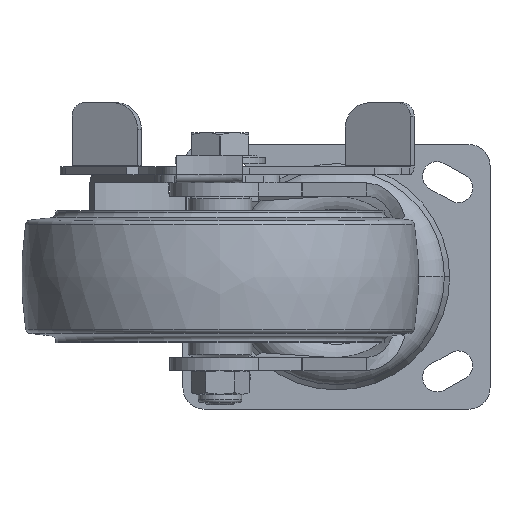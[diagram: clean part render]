
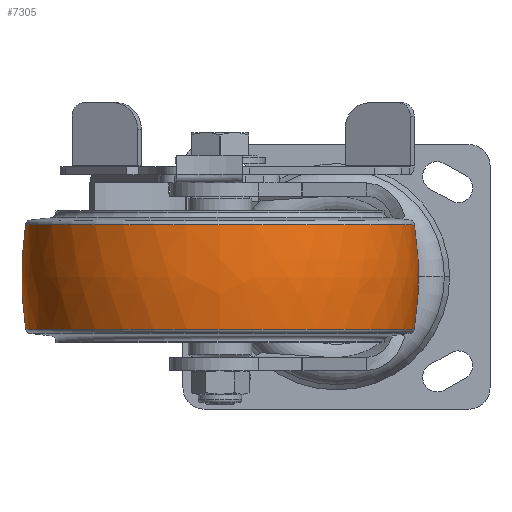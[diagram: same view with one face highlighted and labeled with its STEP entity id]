
A CAD part, front view. The second image highlights one B-rep face of the part: STEP entity #7305.
In plain terms, the highlighted free-form (B-spline) face has degree [3, 3] with [7, 4] control points.
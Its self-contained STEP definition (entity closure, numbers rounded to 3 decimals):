
#5368=CARTESIAN_POINT('',(-19.746,0.,0.));
#5369=DIRECTION('',(-1.,0.,0.));
#5370=DIRECTION('',(0.,1.,0.));
#5371=AXIS2_PLACEMENT_3D('',#5368,#5369,#5370);
#5373=CARTESIAN_POINT('',(0.,-51.741,0.));
#5374=DIRECTION('',(0.,0.,1.));
#5375=DIRECTION('',(0.156,0.988,0.));
#5376=AXIS2_PLACEMENT_3D('',#5373,#5374,#5375);
#5378=CARTESIAN_POINT('',(0.,51.741,
0.));
#5379=DIRECTION('',(0.,0.,-1.));
#5380=DIRECTION('',(0.156,-0.988,0.));
#5381=AXIS2_PLACEMENT_3D('',#5378,#5379,#5380);
#5383=CARTESIAN_POINT('',(19.746,0.,0.));
#5384=DIRECTION('',(-1.,0.,0.));
#5385=DIRECTION('',(0.,1.,0.));
#5386=AXIS2_PLACEMENT_3D('',#5383,#5384,#5385);
#6084=CARTESIAN_POINT('',(19.746,73.452,0.));
#6085=VERTEX_POINT('',#6084);
#6086=CARTESIAN_POINT('',(-19.746,73.452,0.));
#6087=VERTEX_POINT('',#6086);
#6104=CARTESIAN_POINT('',(19.746,-73.452,
0.));
#6105=VERTEX_POINT('',#6104);
#6106=CARTESIAN_POINT('',(-19.746,-73.452,
0.));
#6107=VERTEX_POINT('',#6106);
#7267=CARTESIAN_POINT('',(-20.529,-73.182,
4.604));
#7268=CARTESIAN_POINT('',(-6.904,-75.414,
4.745));
#7269=CARTESIAN_POINT('',(6.904,-75.414,4.745));
#7270=CARTESIAN_POINT('',(20.529,-73.182,4.604));
#7271=CARTESIAN_POINT('',(-20.529,-76.015,
-40.432));
#7272=CARTESIAN_POINT('',(-6.904,-78.334,
-41.665));
#7273=CARTESIAN_POINT('',(6.904,-78.334,
-41.665));
#7274=CARTESIAN_POINT('',(20.529,-76.015,
-40.432));
#7275=CARTESIAN_POINT('',(-20.529,-45.125,
-73.326));
#7276=CARTESIAN_POINT('',(-6.904,-46.501,
-75.563));
#7277=CARTESIAN_POINT('',(6.904,-46.501,
-75.563));
#7278=CARTESIAN_POINT('',(20.529,-45.125,
-73.326));
#7279=CARTESIAN_POINT('',(-20.529,0.,-73.326));
#7280=CARTESIAN_POINT('',(-6.904,0.,-75.563));
#7281=CARTESIAN_POINT('',(6.904,0.,
-75.563));
#7282=CARTESIAN_POINT('',(20.529,0.,-73.326));
#7283=CARTESIAN_POINT('',(-20.529,45.125,
-73.326));
#7284=CARTESIAN_POINT('',(-6.904,46.501,
-75.563));
#7285=CARTESIAN_POINT('',(6.904,46.501,-75.563));
#7286=CARTESIAN_POINT('',(20.529,45.125,-73.326));
#7287=CARTESIAN_POINT('',(-20.529,76.015,
-40.432));
#7288=CARTESIAN_POINT('',(-6.904,78.334,
-41.665));
#7289=CARTESIAN_POINT('',(6.904,78.334,-41.665));
#7290=CARTESIAN_POINT('',(20.529,76.015,-40.432));
#7291=CARTESIAN_POINT('',(-20.529,73.182,4.604));
#7292=CARTESIAN_POINT('',(-6.904,75.414,4.745));
#7293=CARTESIAN_POINT('',(6.904,75.414,4.745));
#7294=CARTESIAN_POINT('',(20.529,73.182,4.604));
#7295=(BOUNDED_SURFACE()B_SPLINE_SURFACE(3,3,((#7267,#7268,#7269,#7270),(#7271,
#7272,#7273,#7274),(#7275,#7276,#7277,#7278),(#7279,#7280,#7281,#7282),(#7283,
#7284,#7285,#7286),(#7287,#7288,#7289,#7290),(#7291,#7292,#7293,#7294)),
.UNSPECIFIED.,.F.,.F.,.F.)B_SPLINE_SURFACE_WITH_KNOTS((4,3,4),(4,4),(0.,1.,
2.),(0.,1.),.UNSPECIFIED.)GEOMETRIC_REPRESENTATION_ITEM()RATIONAL_B_SPLINE_SURFACE(((1.195,1.185,1.185,1.195),(
0.944,0.936,0.936,0.944),(
0.944,0.936,0.936,0.944),(
1.195,1.185,1.185,1.195),(
0.944,0.936,0.936,0.944),(
0.944,0.936,0.936,0.944),(
1.195,1.185,1.185,1.195)))REPRESENTATION_ITEM('')SURFACE());
#7297=ORIENTED_EDGE('',*,*,#7296,.T.);
#7298=ORIENTED_EDGE('',*,*,#7262,.T.);
#7300=ORIENTED_EDGE('',*,*,#7299,.F.);
#7302=ORIENTED_EDGE('',*,*,#7301,.F.);
#7303=EDGE_LOOP('',(#7297,#7298,#7300,#7302));
#7304=FACE_OUTER_BOUND('',#7303,.F.);
#5372=CIRCLE('',#5371,73.452);
#5377=CIRCLE('',#5376,126.741);
#5382=CIRCLE('',#5381,126.741);
#5387=CIRCLE('',#5386,73.452);
#7262=EDGE_CURVE('',#6087,#6107,#5372,.T.);
#7296=EDGE_CURVE('',#6085,#6087,#5377,.T.);
#7299=EDGE_CURVE('',#6105,#6107,#5382,.T.);
#7301=EDGE_CURVE('',#6085,#6105,#5387,.T.);
#7305=ADVANCED_FACE('',(#7304),#7295,.T.);
